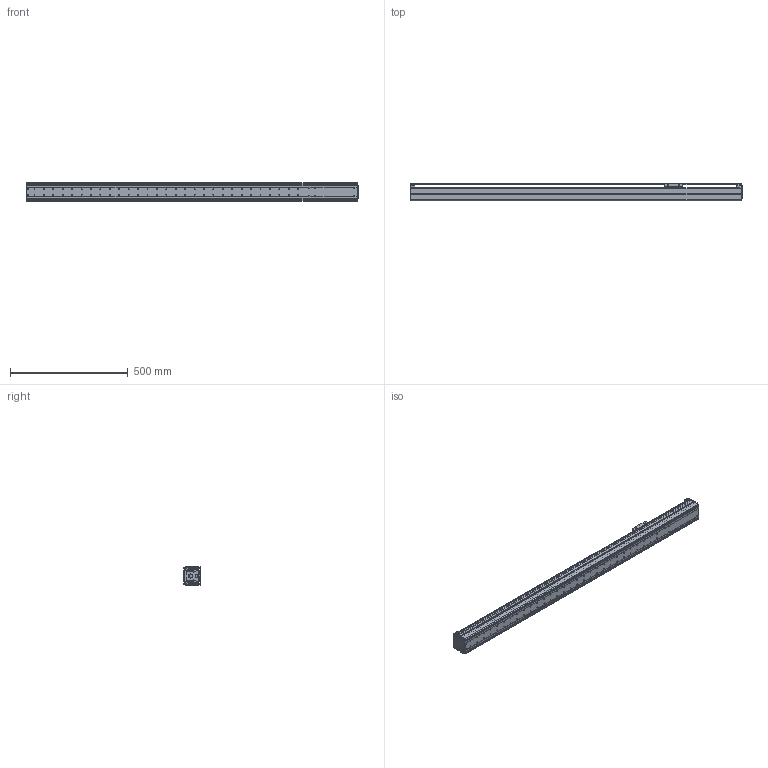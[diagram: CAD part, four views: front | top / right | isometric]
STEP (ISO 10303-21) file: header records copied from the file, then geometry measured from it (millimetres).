
FILE_DESCRIPTION((''),'2;1');
FILE_NAME('BE10E-ST-S_B-A5_IGS_PRT','2017-06-17T',(' '),(''),'PRO/ENGINEER BY PARAMETRIC TECHNOLOGY CORPORATION, 2015030','PRO/ENGINEER BY PARAMETRIC TECHNOLOGY CORPORATION, 2015030','');
FILE_SCHEMA(('CONFIG_CONTROL_DESIGN'));
Length unit declared in the file: millimetre
Products named in the file (1): BE10E-ST-S_B-A5_IGS_PRT
Bounding box: 1410 x 75 x 78 mm (x, y, z)
Volume: 1580797.1 mm3; surface area: 1038573.4 mm2
Topology: 2 solids, 97 shells, 1294 faces, 3491 edges, 2288 vertices
Faces by surface type: cylinder 680, plane 461, torus 64, sphere 42, cone 38, bspline 9
Entity records: 42297 total; most frequent: CARTESIAN_POINT 8881, DIRECTION 7260, ORIENTED_EDGE 6560, EDGE_CURVE 3467, AXIS2_PLACEMENT_3D 2781, VERTEX_POINT 2288, VECTOR 1698, LINE 1698
